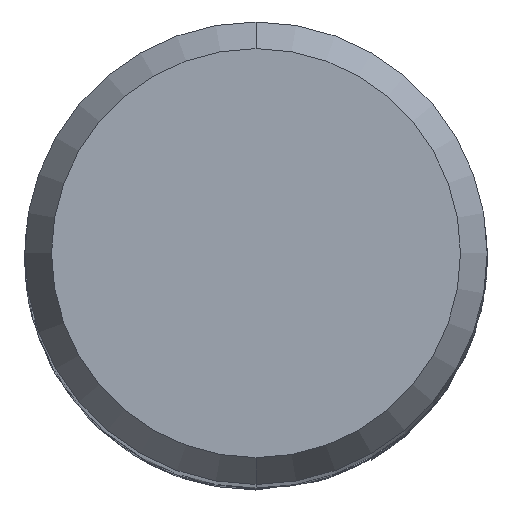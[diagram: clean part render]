
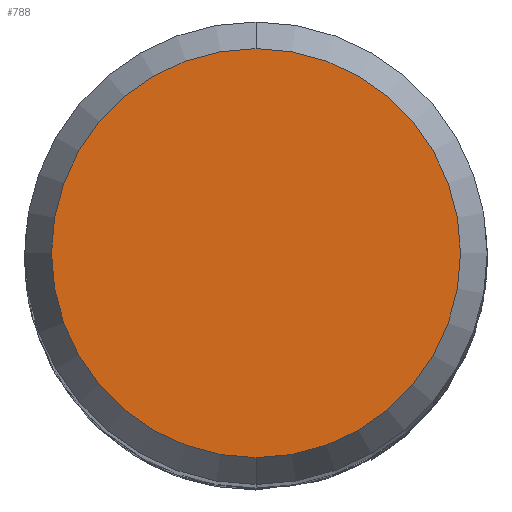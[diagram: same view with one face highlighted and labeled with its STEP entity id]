
A CAD part, top view. The second image highlights one B-rep face of the part: STEP entity #788.
In plain terms, the highlighted planar face has unit normal (0, 0, 1).
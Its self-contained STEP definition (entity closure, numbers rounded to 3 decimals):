
#788=ADVANCED_FACE('',(#2055),#2056,.T.);
#936=VERTEX_POINT('',#2218);
#1130=EDGE_CURVE('',#1706,#936,#2430,.T.);
#1294=EDGE_CURVE('',#936,#1706,#2608,.T.);
#1706=VERTEX_POINT('',#3056);
#2055=FACE_OUTER_BOUND('',#5218,.T.);
#2056=PLANE('',#5219);
#2218=CARTESIAN_POINT('',(0.0,4.423,0.0));
#2430=CIRCLE('',#9204,4.423);
#2608=CIRCLE('',#11259,4.423);
#3056=CARTESIAN_POINT('',(0.,-4.423,0.0));
#5218=EDGE_LOOP('',(#17389,#17390));
#5219=AXIS2_PLACEMENT_3D('',#17391,#17392,#17393);
#9204=AXIS2_PLACEMENT_3D('',#17772,#17773,#17774);
#11259=AXIS2_PLACEMENT_3D('',#17944,#17945,#17946);
#17389=ORIENTED_EDGE('',*,*,#1294,.F.);
#17390=ORIENTED_EDGE('',*,*,#1130,.F.);
#17391=CARTESIAN_POINT('',(0.0,2.211,0.0));
#17392=DIRECTION('',(-0.0,0.0,1.0));
#17393=DIRECTION('',(0.0,-1.0,0.0));
#17772=CARTESIAN_POINT('',(0.0,0.0,0.0));
#17773=DIRECTION('',(0.0,0.0,-1.0));
#17774=DIRECTION('',(0.0,1.0,0.0));
#17944=CARTESIAN_POINT('',(0.0,0.0,0.0));
#17945=DIRECTION('',(0.0,0.0,-1.0));
#17946=DIRECTION('',(0.0,1.0,0.0));
